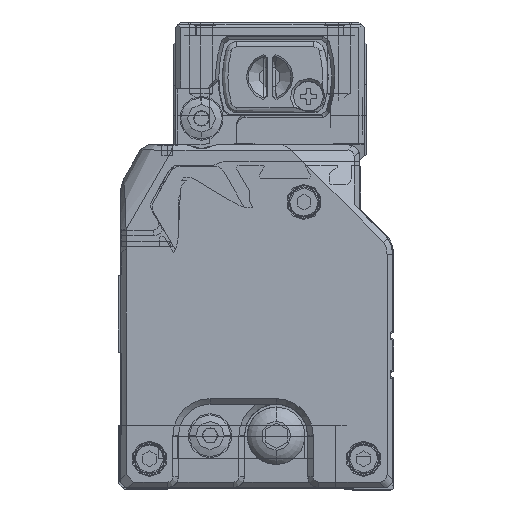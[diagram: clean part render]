
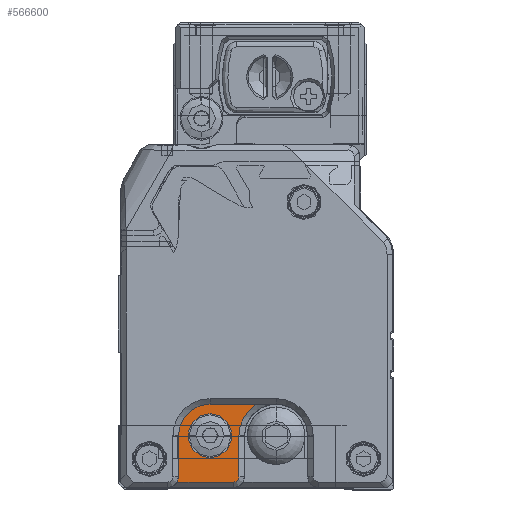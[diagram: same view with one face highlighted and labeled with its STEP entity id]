
A CAD part, left-side view. The second image highlights one B-rep face of the part: STEP entity #566600.
In plain terms, the highlighted planar face has unit normal (-1, 0, 0) as drawn and (1, 0, 0) by its records, which use the part's own axes.
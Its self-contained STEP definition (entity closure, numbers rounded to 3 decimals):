
#489420=CARTESIAN_POINT('',(4864.177,-2.788,
3.148));
#489430=VERTEX_POINT('',#489420);
#489460=CARTESIAN_POINT('',(4864.177,-9.538,
3.148));
#489470=DIRECTION('',(-1.,0.,0.));
#489480=DIRECTION('',(0.,1.,0.));
#489490=AXIS2_PLACEMENT_3D('',#489460,#489470,#489480);
#489500=CIRCLE('',#489490,6.75);
#489510=CARTESIAN_POINT('',(4864.177,-6.002,
-2.602));
#489520=VERTEX_POINT('',#489510);
#489530=EDGE_CURVE('',#489430,#489520,#489500,.T.);
#495780=CARTESIAN_POINT('',(4864.177,-5.888,
-2.602));
#495790=DIRECTION('',(0.,1.,0.));
#495800=VECTOR('',#495790,1.);
#495810=LINE('',#495780,#495800);
#495820=CARTESIAN_POINT('',(4864.177,2.462,
-2.602));
#495830=VERTEX_POINT('',#495820);
#495840=EDGE_CURVE('',#489520,#495830,#495810,.T.);
#524010=CARTESIAN_POINT('',(4864.177,8.212,
3.148));
#524020=VERTEX_POINT('',#524010);
#524050=CARTESIAN_POINT('',(4864.177,8.212,
3.148));
#524060=DIRECTION('',(0.,0.,1.));
#524070=VECTOR('',#524060,1.);
#524080=LINE('',#524050,#524070);
#524090=CARTESIAN_POINT('',(4864.177,8.212,
10.598));
#524100=VERTEX_POINT('',#524090);
#524110=EDGE_CURVE('',#524020,#524100,#524080,.T.);
#536280=CARTESIAN_POINT('',(4864.177,2.462,
3.148));
#536290=DIRECTION('',(-1.,0.,0.));
#536300=DIRECTION('',(0.,1.,0.));
#536310=AXIS2_PLACEMENT_3D('',#536280,#536290,#536300);
#536320=CIRCLE('',#536310,5.75);
#536330=EDGE_CURVE('',#524020,#495830,#536320,.T.);
#548590=CARTESIAN_POINT('',(4864.177,10.212,
10.598));
#548600=DIRECTION('',(-1.,0.,0.));
#548610=DIRECTION('',(0.,1.,0.));
#548620=AXIS2_PLACEMENT_3D('',#548590,#548600,#548610);
#548630=CIRCLE('',#548620,2.);
#548640=CARTESIAN_POINT('',(4864.177,8.48,
11.598));
#548650=VERTEX_POINT('',#548640);
#548660=EDGE_CURVE('',#524100,#548650,#548630,.T.);
#566100=CARTESIAN_POINT('',(4864.177,-5.938,
-12.8));
#566110=DIRECTION('',(-1.,0.,0.));
#566120=DIRECTION('',(0.,0.,-1.));
#566130=AXIS2_PLACEMENT_3D('',#566100,#566110,#566120);
#566140=PLANE('',#566130);
#566150=CARTESIAN_POINT('',(4864.177,4.212,
11.598));
#566160=DIRECTION('',(0.,-1.,0.));
#566170=VECTOR('',#566160,1.);
#566180=LINE('',#566150,#566170);
#566190=CARTESIAN_POINT('',(4864.177,-1.788,
11.598));
#566200=VERTEX_POINT('',#566190);
#566210=EDGE_CURVE('',#548650,#566200,#566180,.T.);
#566220=ORIENTED_EDGE('',*,*,#566210,.T.);
#566230=ORIENTED_EDGE('',*,*,#548660,.T.);
#566240=ORIENTED_EDGE('',*,*,#524110,.T.);
#566250=ORIENTED_EDGE('',*,*,#536330,.F.);
#566260=ORIENTED_EDGE('',*,*,#495840,.T.);
#566270=ORIENTED_EDGE('',*,*,#489530,.T.);
#566280=CARTESIAN_POINT('',(4864.177,-2.788,
6.873));
#566290=DIRECTION('',(0.,0.,-1.));
#566300=VECTOR('',#566290,1.);
#566310=LINE('',#566280,#566300);
#566320=CARTESIAN_POINT('',(4864.177,-2.788,
10.598));
#566330=VERTEX_POINT('',#566320);
#566340=EDGE_CURVE('',#566330,#489430,#566310,.T.);
#566350=ORIENTED_EDGE('',*,*,#566340,.T.);
#566360=CARTESIAN_POINT('',(4864.177,-1.788,
10.598));
#566370=DIRECTION('',(-1.,0.,0.));
#566380=DIRECTION('',(0.,1.,0.));
#566390=AXIS2_PLACEMENT_3D('',#566360,#566370,#566380);
#566400=CIRCLE('',#566390,1.);
#566410=EDGE_CURVE('',#566330,#566200,#566400,.T.);
#566420=ORIENTED_EDGE('',*,*,#566410,.F.);
#566430=EDGE_LOOP('',(#566420,#566350,#566270,#566260,#566250,#566240,
#566230,#566220));
#566440=FACE_OUTER_BOUND('',#566430,.T.);
#566450=CARTESIAN_POINT('',(4864.177,2.462,
3.148));
#566460=DIRECTION('',(-1.,0.,0.));
#566470=DIRECTION('',(0.,0.,-1.));
#566480=AXIS2_PLACEMENT_3D('',#566450,#566460,#566470);
#566490=CIRCLE('',#566480,4.);
#566500=CARTESIAN_POINT('',(4864.177,2.462,
7.148));
#566510=VERTEX_POINT('',#566500);
#566520=CARTESIAN_POINT('',(4864.177,2.462,
-0.852));
#566530=VERTEX_POINT('',#566520);
#566540=EDGE_CURVE('',#566510,#566530,#566490,.T.);
#566550=ORIENTED_EDGE('',*,*,#566540,.T.);
#566560=EDGE_CURVE('',#566530,#566510,#566490,.T.);
#566570=ORIENTED_EDGE('',*,*,#566560,.T.);
#566580=EDGE_LOOP('',(#566570,#566550));
#566590=FACE_BOUND('',#566580,.T.);
#566600=ADVANCED_FACE('',(#566440,#566590),#566140,.F.);
